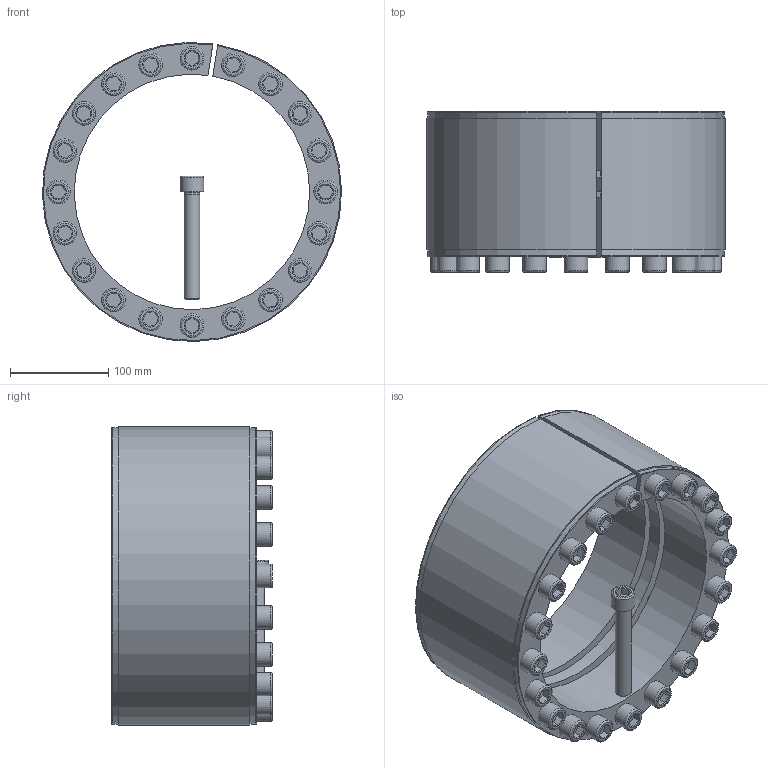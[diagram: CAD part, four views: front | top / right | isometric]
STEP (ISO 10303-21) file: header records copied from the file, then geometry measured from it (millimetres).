
FILE_DESCRIPTION( ( 'Unknown' ), '1' );
FILE_NAME( 'C:/Dokumente und Einstellungen/Sven/Desktop/homepage/cad - homepage/KBS11/KBS 11 - 240 x 305.stp', 'Unknown', ( 'Unknown' ), ( 'Unknown' ), 'XStep 1.0', 'Unknown', ' ' );
FILE_SCHEMA( ( 'automotive_design' ) );
Length unit declared in the file: millimetre
Products named in the file (3): Assem1; KBS 11 - 240 x 305; ISO EN DIN 4762 M16x110
Bounding box: 304.95 x 164 x 304.9 mm (x, y, z)
Volume: 7068427.9 mm3; surface area: 1198736.1 mm2
Topology: 23 solids, 23 shells, 685 faces, 1449 edges, 894 vertices
Faces by surface type: plane 272, cylinder 216, cone 155, torus 42
Full cylindrical faces by diameter (mm): 13 x21, 16 x162, 24 x21
Entity records: 3638 total; most frequent: CARTESIAN_POINT 605, DIRECTION 604, ORIENTED_EDGE 418, EDGE_LOOP 296, AXIS2_PLACEMENT_3D 282, EDGE_CURVE 209, VERTEX_POINT 179, FACE_OUTER_BOUND 171
